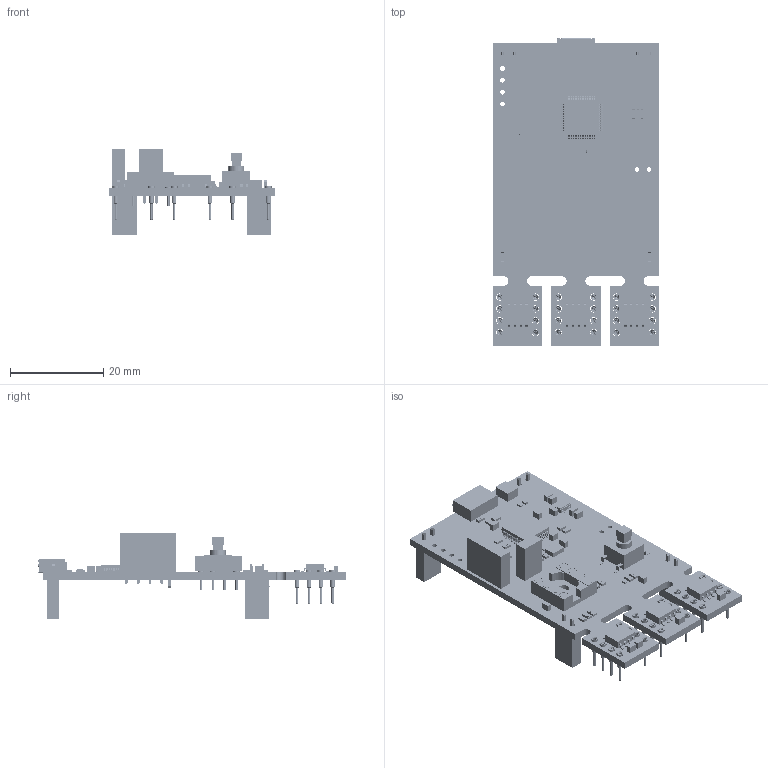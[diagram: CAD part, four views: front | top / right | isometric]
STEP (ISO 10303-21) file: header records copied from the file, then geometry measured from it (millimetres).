
FILE_DESCRIPTION(('Open CASCADE Model'),'2;1');
FILE_NAME('Open CASCADE Shape Model','2017-12-18T12:35:47',('Author'),( 'Open CASCADE'),'Open CASCADE STEP processor 6.8','Open CASCADE 6.8' ,'Unknown');
FILE_SCHEMA(('AUTOMOTIVE_DESIGN { 1 0 10303 214 1 1 1 1 }'));
Length unit declared in the file: millimetre
Products named in the file (148): PCB; Board; CN7; TSW-102-05-G-S; _TSW-102-05-G-S_body; _T-1S6-21-TSW-1-05-2-S; 697387856; Extruded; B1; 697388808; 697388400; 697384456; 697386360; 840165664; Cylinder; 697386224; 697384320; C9; C0402; 697384184; C12; C0603; 697388264; C1; C4; 697390032; C13; C5; C10; C8; 697389624; C6; C11; C18; C17; C14; C15; C16; C7; C19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
Assembly tree (309 placements, depth 4):
  PCB
    Board
    CN7
      TSW-102-05-G-S
        _TSW-102-05-G-S_body
        _T-1S6-21-TSW-1-05-2-S
      697387856
        Extruded
    B1
      697388808  x4
        Extruded
      697388400  x4
        Extruded
      697384456  x4
        Extruded
      697386360
        Extruded
      840165664
        Cylinder
      697386224
        Extruded
      697384320
        Extruded
    C9
      C0402
      697384184
        Extruded
    C12
      C0603
      697388264
        Extruded
    C1
      C0603
      697388264
        Extruded
    C4
      C0603
      697390032
        Extruded
    C13
      C0603
      697388264
        Extruded
    C5
      C0603
      697390032
        Extruded
    C10
      C0603
      697390032
        Extruded
    C8
      C0402
      697389624
        Extruded
    C6
      C0402
      697389624
        Extruded
    C11
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Bounding box: 35.5 x 66.1 x 18.36 mm (x, y, z)
Volume: 5668.2 mm3; surface area: 10815.6 mm2
Topology: 302 solids, 303 shells, 10537 faces, 25625 edges, 15302 vertices
Faces by surface type: plane 4453, bspline 3040, cylinder 2606, cone 238, sphere 158, revolution 24, torus 18
Full cylindrical faces by diameter (mm): 0.9 x2, 1 x28, 1.55 x24, 3.4 x1
Entity records: 86667 total; most frequent: CARTESIAN_POINT 21155, ORIENTED_EDGE 11220, DIRECTION 11011, EDGE_CURVE 5611, LINE 3959, VECTOR 3959, VERTEX_POINT 3565, AXIS2_PLACEMENT_3D 3522
